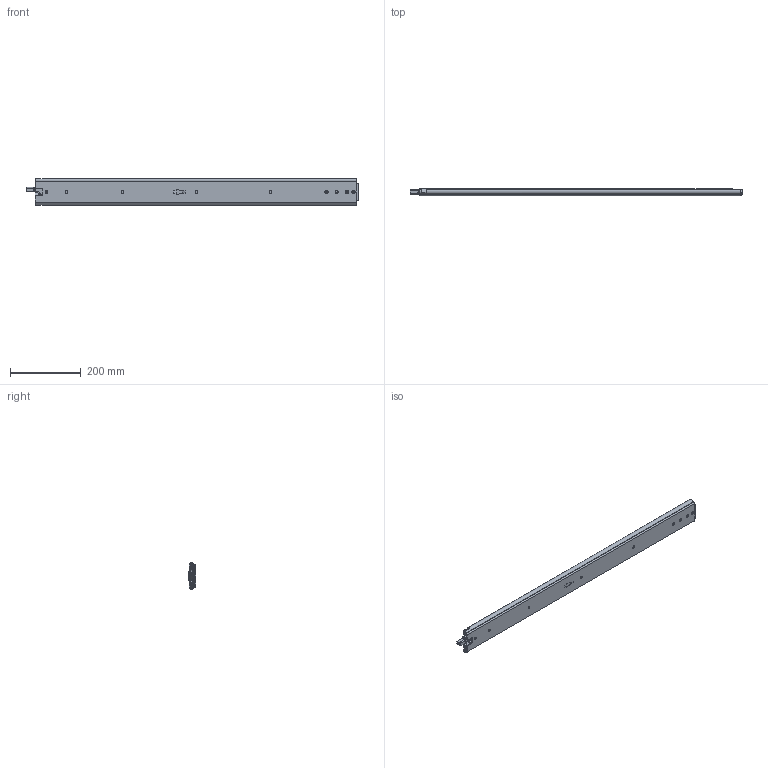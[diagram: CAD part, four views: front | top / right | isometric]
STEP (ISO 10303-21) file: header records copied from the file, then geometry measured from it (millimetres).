
FILE_DESCRIPTION((''),'2;1');
FILE_NAME('DG-76-3S-36YOU_ASM','2023-05-10T',('jishu015'),(''),'PRO/ENGINEER BY PARAMETRIC TECHNOLOGY CORPORATION, 2010280','PRO/ENGINEER BY PARAMETRIC TECHNOLOGY CORPORATION, 2010280','');
FILE_SCHEMA(('CONFIG_CONTROL_DESIGN'));
Products named in the file (29): KP-76-04WAIKE-1816_________; 1076-WAIKEZIDANJIAO16_________; WAIK16__________ASM; 1076XIAOZHUTIAO-22516_________; 16_________; 1076XIAOZHUTIAO-17516__________ASM; KP-76-04ZHONGGUI1816_________; 76CHANGGUIZHONGGUIJIAO1621_; 3X6WODIN16_________; ZHONGGUIBAIKOU16_________; PJ-76-30________; PJ-76-03________; 76-XIAOZHUJIA-11________; GANGZHU-XIAO________; ZHUJIA-XIAO_________ASM; ZHONGGUI6__________ASM; KP-76-04NEIGUI1816_________; PJ-76-31________; DAOGPIAN16_________; 1053-3SBANJ01________; JIAO-11________; 76XINSUOKOU________; PJ-338________; PJ-356________; PJ-357________; PJ-336________; M4X4________; NEIGUI16__________ASM; DG-76-3S-36YOU_ASM
Assembly tree (76 placements, depth 4):
  DG-76-3S-36YOU_ASM
    WAIK16__________ASM
      KP-76-04WAIKE-1816_________
      1076-WAIKEZIDANJIAO16_________  x2
    1076XIAOZHUTIAO-17516__________ASM  x2
      1076XIAOZHUTIAO-22516_________
      16_________
    ZHONGGUI6__________ASM
      KP-76-04ZHONGGUI1816_________
      76CHANGGUIZHONGGUIJIAO1621_
      3X6WODIN16_________
      ZHONGGUIBAIKOU16_________
      PJ-76-30________
      PJ-76-03________
      ZHUJIA-XIAO_________ASM
        76-XIAOZHUJIA-11________
        GANGZHU-XIAO________  x32
    NEIGUI16__________ASM
      KP-76-04NEIGUI1816_________
      PJ-76-31________
      DAOGPIAN16_________
      1053-3SBANJ01________
      JIAO-11________
      76XINSUOKOU________
      PJ-338________
      PJ-356________
      PJ-357________
      PJ-336________
      M4X4________
Bounding box: 940.32 x 20.6 x 75.3 mm (x, y, z)
Volume: 601523.4 mm3; surface area: 578551.3 mm2
Topology: 88 solids, 88 shells, 2222 faces, 6707 edges, 4248 vertices
Faces by surface type: plane 1143, cylinder 817, sphere 135, bspline 60, cone 28, extrusion 23, torus 16
Entity records: 72247 total; most frequent: CARTESIAN_POINT 19341, ORIENTED_EDGE 11530, DIRECTION 10516, EDGE_CURVE 5765, VERTEX_POINT 3756, AXIS2_PLACEMENT_3D 3618, VECTOR 3280, LINE 3257
